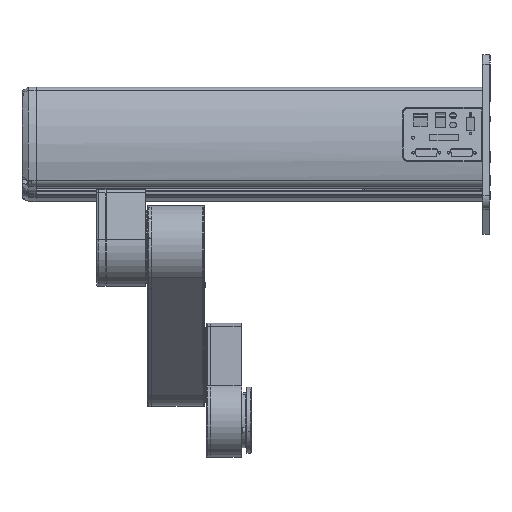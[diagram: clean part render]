
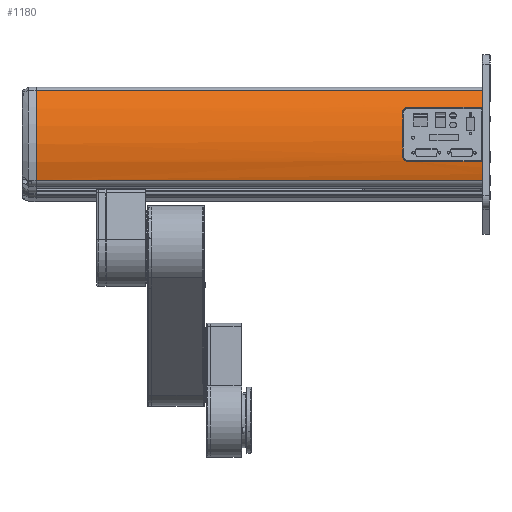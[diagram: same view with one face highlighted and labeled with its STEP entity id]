
A CAD part, front view. The second image highlights one B-rep face of the part: STEP entity #1180.
In plain terms, the highlighted cylindrical face has radius 140 mm (diameter 280 mm), a partial arc.
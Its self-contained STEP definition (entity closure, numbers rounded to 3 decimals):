
#1040=CARTESIAN_POINT('Vertex',(568.,-61.837,57.077)) ;
#1047=CARTESIAN_POINT('Vertex',(0.,-61.837,57.077)) ;
#1050=CARTESIAN_POINT('Line Origine',(284.,-61.837,57.077)) ;
#1062=CARTESIAN_POINT('Axis2P3D Location',(284.,66.,0.)) ;
#1067=CARTESIAN_POINT('Axis2P3D Location',(0.,66.,0.)) ;
#1071=CARTESIAN_POINT('Vertex',(0.,-63.,54.397)) ;
#1074=CARTESIAN_POINT('Axis2P3D Location',(0.,66.,0.)) ;
#1078=CARTESIAN_POINT('Vertex',(0.,-60.853,-59.231)) ;
#1081=CARTESIAN_POINT('Line Origine',(284.66,-60.853,-59.231)) ;
#1085=CARTESIAN_POINT('Vertex',(568.,-60.853,-59.231)) ;
#1088=CARTESIAN_POINT('Axis2P3D Location',(568.,66.,0.)) ;
#1092=CARTESIAN_POINT('Vertex',(568.,-69.301,-35.966)) ;
#1095=CARTESIAN_POINT('Line Origine',(284.66,-69.301,-35.966)) ;
#1099=CARTESIAN_POINT('Vertex',(473.,-69.301,-35.966)) ;
#1103=CARTESIAN_POINT('Control Point',(467.,-70.7,-30.216)) ;
#1104=CARTESIAN_POINT('Control Point',(467.033,-70.295,-32.051)) ;
#1105=CARTESIAN_POINT('Control Point',(467.805,-69.868,-33.839)) ;
#1106=CARTESIAN_POINT('Control Point',(469.268,-69.491,-35.254)) ;
#1107=CARTESIAN_POINT('Control Point',(471.145,-69.301,-35.966)) ;
#1108=CARTESIAN_POINT('Control Point',(473.,-69.301,-35.966)) ;
#1109=CARTESIAN_POINT('Vertex',(467.,-70.701,-30.216)) ;
#1113=CARTESIAN_POINT('Control Point',(467.,-71.057,-28.557)) ;
#1114=CARTESIAN_POINT('Control Point',(467.,-70.941,-29.11)) ;
#1115=CARTESIAN_POINT('Control Point',(466.99,-70.822,-29.664)) ;
#1116=CARTESIAN_POINT('Control Point',(467.,-70.7,-30.216)) ;
#1117=CARTESIAN_POINT('Vertex',(467.,-71.057,-28.557)) ;
#1120=CARTESIAN_POINT('Axis2P3D Location',(467.,66.,0.)) ;
#1124=CARTESIAN_POINT('Vertex',(467.,-71.462,26.537)) ;
#1128=CARTESIAN_POINT('Control Point',(467.,-71.13,28.201)) ;
#1129=CARTESIAN_POINT('Control Point',(466.991,-71.244,27.648)) ;
#1130=CARTESIAN_POINT('Control Point',(467.,-71.355,27.093)) ;
#1131=CARTESIAN_POINT('Control Point',(467.,-71.462,26.537)) ;
#1132=CARTESIAN_POINT('Vertex',(467.,-71.13,28.201)) ;
#1136=CARTESIAN_POINT('Control Point',(473.,-69.816,33.97)) ;
#1137=CARTESIAN_POINT('Control Point',(471.145,-69.816,33.97)) ;
#1138=CARTESIAN_POINT('Control Point',(469.27,-69.994,33.257)) ;
#1139=CARTESIAN_POINT('Control Point',(467.802,-70.35,31.839)) ;
#1140=CARTESIAN_POINT('Control Point',(467.031,-70.752,30.042)) ;
#1141=CARTESIAN_POINT('Control Point',(467.,-71.13,28.201)) ;
#1142=CARTESIAN_POINT('Vertex',(473.,-69.816,33.97)) ;
#1145=CARTESIAN_POINT('Line Origine',(284.66,-69.816,33.97)) ;
#1149=CARTESIAN_POINT('Vertex',(568.,-69.816,33.97)) ;
#1152=CARTESIAN_POINT('Axis2P3D Location',(568.,66.,0.)) ;
#1156=CARTESIAN_POINT('Vertex',(568.,-63.,54.397)) ;
#1159=CARTESIAN_POINT('Axis2P3D Location',(568.,66.,0.)) ;
#1051=DIRECTION('Vector Direction',(-1.,0.,0.)) ;
#1063=DIRECTION('Axis2P3D Direction',(1.,0.,0.)) ;
#1064=DIRECTION('Axis2P3D XDirection',(0.,-0.736,0.677)) ;
#1068=DIRECTION('Axis2P3D Direction',(1.,0.,0.)) ;
#1075=DIRECTION('Axis2P3D Direction',(1.,0.,0.)) ;
#1082=DIRECTION('Vector Direction',(1.,0.,0.)) ;
#1089=DIRECTION('Axis2P3D Direction',(1.,0.,0.)) ;
#1096=DIRECTION('Vector Direction',(1.,0.,0.)) ;
#1121=DIRECTION('Axis2P3D Direction',(1.,0.,0.)) ;
#1146=DIRECTION('Vector Direction',(1.,0.,0.)) ;
#1153=DIRECTION('Axis2P3D Direction',(1.,0.,0.)) ;
#1160=DIRECTION('Axis2P3D Direction',(1.,0.,0.)) ;
#1065=AXIS2_PLACEMENT_3D('Cylinder Axis2P3D',#1062,#1063,#1064) ;
#1069=AXIS2_PLACEMENT_3D('Circle Axis2P3D',#1067,#1068,$) ;
#1076=AXIS2_PLACEMENT_3D('Circle Axis2P3D',#1074,#1075,$) ;
#1090=AXIS2_PLACEMENT_3D('Circle Axis2P3D',#1088,#1089,$) ;
#1122=AXIS2_PLACEMENT_3D('Circle Axis2P3D',#1120,#1121,$) ;
#1154=AXIS2_PLACEMENT_3D('Circle Axis2P3D',#1152,#1153,$) ;
#1161=AXIS2_PLACEMENT_3D('Circle Axis2P3D',#1159,#1160,$) ;
#1165=ORIENTED_EDGE('',*,*,#1073,.T.) ;
#1166=ORIENTED_EDGE('',*,*,#1080,.T.) ;
#1167=ORIENTED_EDGE('',*,*,#1087,.T.) ;
#1168=ORIENTED_EDGE('',*,*,#1094,.F.) ;
#1169=ORIENTED_EDGE('',*,*,#1101,.F.) ;
#1170=ORIENTED_EDGE('',*,*,#1111,.F.) ;
#1171=ORIENTED_EDGE('',*,*,#1119,.F.) ;
#1172=ORIENTED_EDGE('',*,*,#1126,.F.) ;
#1173=ORIENTED_EDGE('',*,*,#1134,.F.) ;
#1174=ORIENTED_EDGE('',*,*,#1144,.F.) ;
#1175=ORIENTED_EDGE('',*,*,#1151,.F.) ;
#1176=ORIENTED_EDGE('',*,*,#1158,.F.) ;
#1177=ORIENTED_EDGE('',*,*,#1163,.F.) ;
#1178=ORIENTED_EDGE('',*,*,#1054,.F.) ;
#1052=VECTOR('Line Direction',#1051,1.) ;
#1083=VECTOR('Line Direction',#1082,1.) ;
#1097=VECTOR('Line Direction',#1096,1.) ;
#1147=VECTOR('Line Direction',#1146,1.) ;
#1180=ADVANCED_FACE('\X2\96F64EF651E04F554F53\X0\',(#1179),#1066,.T.) ;
#1102=B_SPLINE_CURVE_WITH_KNOTS('',5,(#1103,#1104,#1105,#1106,#1107,#1108),.UNSPECIFIED.,.F.,.U.,(6,6),(18.811,31.042),.UNSPECIFIED.) ;
#1112=B_SPLINE_CURVE_WITH_KNOTS('',3,(#1113,#1114,#1115,#1116),.UNSPECIFIED.,.F.,.U.,(4,4),(468.581,470.278),.UNSPECIFIED.) ;
#1127=B_SPLINE_CURVE_WITH_KNOTS('',3,(#1128,#1129,#1130,#1131),.UNSPECIFIED.,.F.,.U.,(4,4),(411.427,413.124),.UNSPECIFIED.) ;
#1135=B_SPLINE_CURVE_WITH_KNOTS('',5,(#1136,#1137,#1138,#1139,#1140,#1141),.UNSPECIFIED.,.F.,.U.,(6,6),(18.475,30.701),.UNSPECIFIED.) ;
#1070=CIRCLE('generated circle',#1069,140.) ;
#1077=CIRCLE('generated circle',#1076,140.) ;
#1091=CIRCLE('generated circle',#1090,140.) ;
#1123=CIRCLE('generated circle',#1122,140.) ;
#1155=CIRCLE('generated circle',#1154,140.) ;
#1162=CIRCLE('generated circle',#1161,140.) ;
#1066=CYLINDRICAL_SURFACE('generated cylinder',#1065,140.) ;
#1054=EDGE_CURVE('',#1048,#1041,#1053,.F.) ;
#1073=EDGE_CURVE('',#1048,#1072,#1070,.T.) ;
#1080=EDGE_CURVE('',#1072,#1079,#1077,.T.) ;
#1087=EDGE_CURVE('',#1079,#1086,#1084,.T.) ;
#1094=EDGE_CURVE('',#1093,#1086,#1091,.T.) ;
#1101=EDGE_CURVE('',#1100,#1093,#1098,.T.) ;
#1111=EDGE_CURVE('',#1110,#1100,#1102,.T.) ;
#1119=EDGE_CURVE('',#1118,#1110,#1112,.T.) ;
#1126=EDGE_CURVE('',#1125,#1118,#1123,.T.) ;
#1134=EDGE_CURVE('',#1133,#1125,#1127,.T.) ;
#1144=EDGE_CURVE('',#1143,#1133,#1135,.T.) ;
#1151=EDGE_CURVE('',#1150,#1143,#1148,.F.) ;
#1158=EDGE_CURVE('',#1157,#1150,#1155,.T.) ;
#1163=EDGE_CURVE('',#1041,#1157,#1162,.T.) ;
#1164=EDGE_LOOP('',(#1165,#1166,#1167,#1168,#1169,#1170,#1171,#1172,#1173,#1174,#1175,#1176,#1177,#1178)) ;
#1179=FACE_OUTER_BOUND('',#1164,.T.) ;
#1053=LINE('Line',#1050,#1052) ;
#1084=LINE('Line',#1081,#1083) ;
#1098=LINE('Line',#1095,#1097) ;
#1148=LINE('Line',#1145,#1147) ;
#1041=VERTEX_POINT('',#1040) ;
#1048=VERTEX_POINT('',#1047) ;
#1072=VERTEX_POINT('',#1071) ;
#1079=VERTEX_POINT('',#1078) ;
#1086=VERTEX_POINT('',#1085) ;
#1093=VERTEX_POINT('',#1092) ;
#1100=VERTEX_POINT('',#1099) ;
#1110=VERTEX_POINT('',#1109) ;
#1118=VERTEX_POINT('',#1117) ;
#1125=VERTEX_POINT('',#1124) ;
#1133=VERTEX_POINT('',#1132) ;
#1143=VERTEX_POINT('',#1142) ;
#1150=VERTEX_POINT('',#1149) ;
#1157=VERTEX_POINT('',#1156) ;
